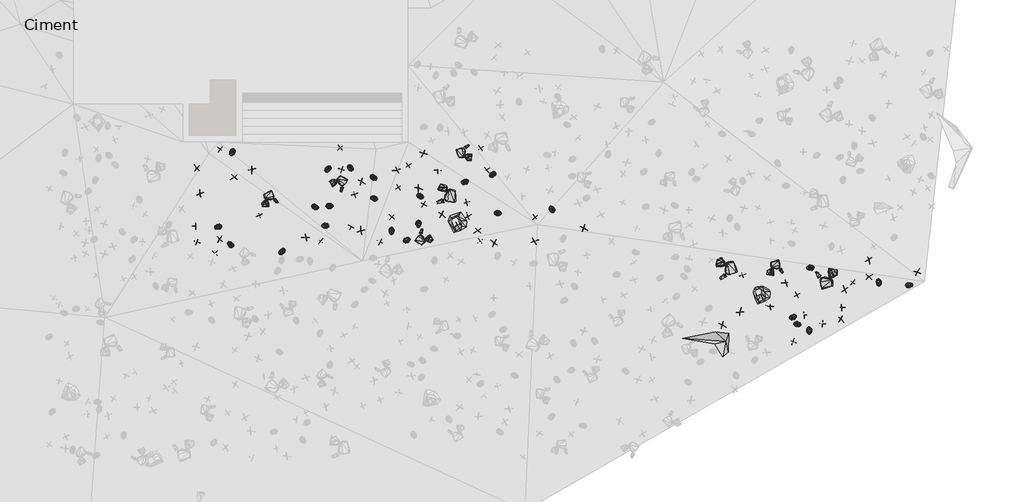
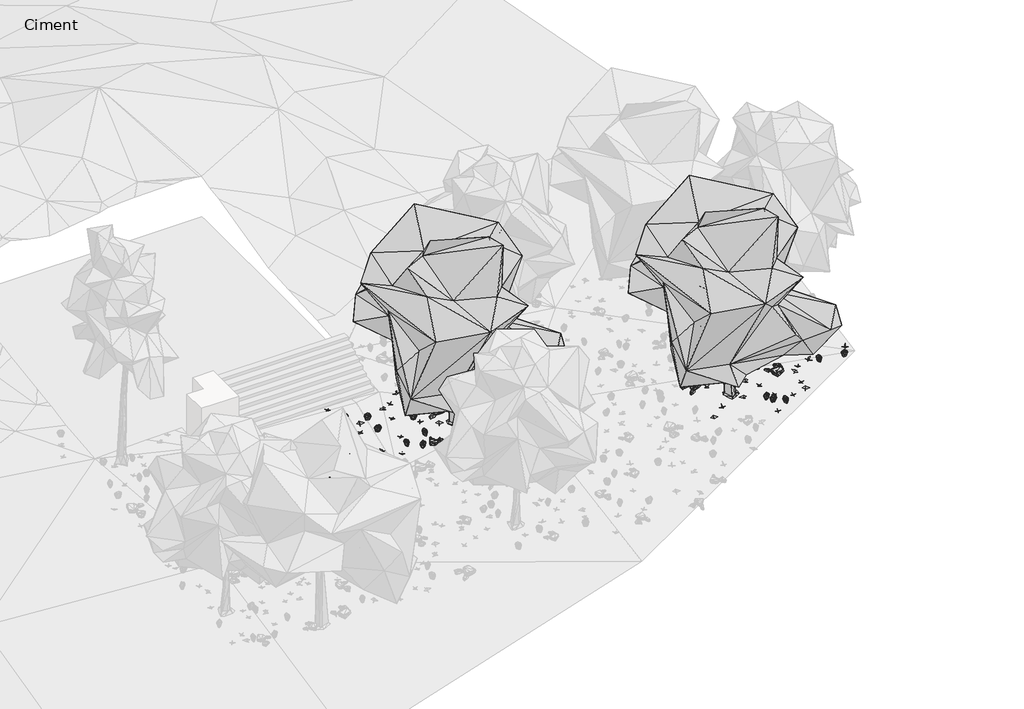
# One storey, part 14 of 30: 90 geographic elements.
"""IFC4 building model written with IfcOpenShell, lengths in millimetres."""

from ifc_helpers import new_model, si_unit, origin, place, context, project, spatial, transform, mapped, element, save
from components import enscape_assetdefinition_bush_025_fern_enscape_5718bf32, enscape_assetdefinition_bush_054_plant_09_version_2_enscape_7b546a12, enscape_assetdefinition_bush_062_plant_09_version_3_enscape_ccf8c8eb, enscape_assetdefinition_deciduous_tree_029_elm_enscape_e4c49baf, enscape_assetdefinition_stone_013_group_enscape_516da325, enscape_assetdefinition_stone_013_group_enscape_db9b3e91

model = new_model("IFC4")

# Units and contexts
model_context = context("Model", 3, world=origin())
ifc_project = project(units=[si_unit("LENGTHUNIT", "METRE", prefix="MILLI")], contexts=[model_context])

# Site, building, storey
site = spatial("IfcSite", under=ifc_project)
building = spatial("IfcBuilding", under=site)
storey = spatial("IfcBuildingStorey", under=building, Name="Ciment", Elevation=-1500.0)

# Geographic elements
placement = place(None, origin())
enscape_assetdefinition_bush_025_fern_enscape_shape = enscape_assetdefinition_bush_025_fern_enscape_5718bf32(model_context)
element("IfcGeographicElement", 1, ObjectType="Enscape AssetDefinition - Bush 025 Fern : Enscape AssetDefinition - Bush 025 Fern", at=placement, inside=storey, context=model_context, shape_type="MappedRepresentation", body=[
    mapped(enscape_assetdefinition_bush_025_fern_enscape_shape, transform((1644.0600157, -15642.2052383, -1774.5770216), x_axis=(-0.8180574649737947, 0.5751364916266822, 0.0), y_axis=(-0.5751364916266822, -0.8180574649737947, 0.0), z_axis=(0.0, 0.0, 1.0))),
])
element("IfcGeographicElement", 2, ObjectType="Enscape AssetDefinition - Bush 025 Fern : Enscape AssetDefinition - Bush 025 Fern", at=placement, inside=storey, context=model_context, shape_type="MappedRepresentation", body=[
    mapped(enscape_assetdefinition_bush_025_fern_enscape_shape, transform((22712.3355865, -18370.2144623, -2858.6161137), x_axis=(0.8759788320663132, 0.4823495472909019, 0.0), y_axis=(-0.4823495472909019, 0.8759788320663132, 0.0), z_axis=(0.0, 0.0, 1.0))),
])
element("IfcGeographicElement", 3, ObjectType="Enscape AssetDefinition - Bush 025 Fern : Enscape AssetDefinition - Bush 025 Fern", at=placement, inside=storey, context=model_context, shape_type="MappedRepresentation", body=[
    mapped(enscape_assetdefinition_bush_025_fern_enscape_shape, transform((7678.2355309, -15123.2194901, -1875.4259348), x_axis=(-0.20980226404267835, 0.9777438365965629, 0.0), y_axis=(-0.9777438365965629, -0.20980226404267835, 0.0), z_axis=(0.0, 0.0, 1.0))),
])
element("IfcGeographicElement", 4, ObjectType="Enscape AssetDefinition - Bush 025 Fern : Enscape AssetDefinition - Bush 025 Fern", at=placement, inside=storey, context=model_context, shape_type="MappedRepresentation", body=[
    mapped(enscape_assetdefinition_bush_025_fern_enscape_shape, transform((5188.0550385, -14940.2866364, -1783.2607031), x_axis=(-0.9965897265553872, -0.08251616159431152, 0.0), y_axis=(0.08251616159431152, -0.9965897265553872, 0.0), z_axis=(0.0, 0.0, 1.0))),
])
element("IfcGeographicElement", 5, ObjectType="Enscape AssetDefinition - Bush 025 Fern : Enscape AssetDefinition - Bush 025 Fern", at=placement, inside=storey, context=model_context, shape_type="MappedRepresentation", body=[
    mapped(enscape_assetdefinition_bush_025_fern_enscape_shape, transform((3584.4516754, -15902.3828506, -1865.3075695), x_axis=(0.5774781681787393, 0.8164061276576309, 0.0), y_axis=(-0.8164061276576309, 0.5774781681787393, 0.0), z_axis=(0.0, 0.0, 1.0))),
])
element("IfcGeographicElement", 6, ObjectType="Enscape AssetDefinition - Bush 025 Fern : Enscape AssetDefinition - Bush 025 Fern", at=placement, inside=storey, context=model_context, shape_type="MappedRepresentation", body=[
    mapped(enscape_assetdefinition_bush_025_fern_enscape_shape, transform((23310.6899261, -18883.9511871, -2940.6962395), x_axis=(0.20296764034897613, -0.9791854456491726, 0.0), y_axis=(0.9791854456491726, 0.20296764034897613, 0.0), z_axis=(0.0, 0.0, 1.0))),
])
element("IfcGeographicElement", 7, ObjectType="Enscape AssetDefinition - Bush 025 Fern : Enscape AssetDefinition - Bush 025 Fern", at=placement, inside=storey, context=model_context, shape_type="MappedRepresentation", body=[
    mapped(enscape_assetdefinition_bush_025_fern_enscape_shape, transform((1173.2940674, -14978.1894684, -1673.1889248), x_axis=(-0.9370545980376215, -0.349182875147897, 0.0), y_axis=(0.349182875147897, -0.9370545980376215, 0.0), z_axis=(0.0, 0.0, 1.0))),
])
element("IfcGeographicElement", 8, ObjectType="Enscape AssetDefinition - Bush 025 Fern : Enscape AssetDefinition - Bush 025 Fern", at=placement, inside=storey, context=model_context, shape_type="MappedRepresentation", body=[
    mapped(enscape_assetdefinition_bush_025_fern_enscape_shape, transform((11642.5676346, -14465.8069611, -1898.0927467), x_axis=(-0.9924580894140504, -0.12258442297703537, 0.0), y_axis=(0.12258442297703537, -0.9924580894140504, 0.0), z_axis=(0.0, 0.0, 1.0))),
])
element("IfcGeographicElement", 9, ObjectType="Enscape AssetDefinition - Bush 025 Fern : Enscape AssetDefinition - Bush 025 Fern", at=placement, inside=storey, context=model_context, shape_type="MappedRepresentation", body=[
    mapped(enscape_assetdefinition_bush_025_fern_enscape_shape, transform((8682.9204559, -14876.2645721, -1870.196104), x_axis=(0.09540391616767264, -0.9954386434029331, 0.0), y_axis=(0.9954386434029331, 0.09540391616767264, 0.0), z_axis=(0.0, 0.0, 1.0))),
])
element("IfcGeographicElement", 10, ObjectType="Enscape AssetDefinition - Bush 025 Fern : Enscape AssetDefinition - Bush 025 Fern", at=placement, inside=storey, context=model_context, shape_type="MappedRepresentation", body=[
    mapped(enscape_assetdefinition_bush_025_fern_enscape_shape, transform((5290.6131744, -12827.7988434, -1477.8283834), x_axis=(-0.585979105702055, -0.8103261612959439, 0.0), y_axis=(0.8103261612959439, -0.585979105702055, 0.0), z_axis=(0.0, 0.0, 1.0))),
])
element("IfcGeographicElement", 11, ObjectType="Enscape AssetDefinition - Bush 025 Fern : Enscape AssetDefinition - Bush 025 Fern", at=placement, inside=storey, context=model_context, shape_type="MappedRepresentation", body=[
    mapped(enscape_assetdefinition_bush_025_fern_enscape_shape, transform((13681.5357208, -14321.2451935, -2001.9249916), x_axis=(-0.6761263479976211, 0.7367856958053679, 0.0), y_axis=(-0.7367856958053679, -0.6761263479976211, 0.0), z_axis=(0.0, 0.0, 1.0))),
])
element("IfcGeographicElement", 12, ObjectType="Enscape AssetDefinition - Bush 025 Fern : Enscape AssetDefinition - Bush 025 Fern", at=placement, inside=storey, context=model_context, shape_type="MappedRepresentation", body=[
    mapped(enscape_assetdefinition_bush_025_fern_enscape_shape, transform((7006.1402321, -13148.2563019, -1556.9412708), x_axis=(0.9374189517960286, -0.34820354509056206, 0.0), y_axis=(0.34820354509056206, 0.9374189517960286, 0.0), z_axis=(0.0, 0.0, 1.0))),
])
element("IfcGeographicElement", 13, ObjectType="Enscape AssetDefinition - Bush 025 Fern : Enscape AssetDefinition - Bush 025 Fern", at=placement, inside=storey, context=model_context, shape_type="MappedRepresentation", body=[
    mapped(enscape_assetdefinition_bush_025_fern_enscape_shape, transform((11454.7967911, -13022.687912, -1727.601409), x_axis=(-0.6300888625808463, -0.7765230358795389, 0.0), y_axis=(0.7765230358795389, -0.6300888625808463, 0.0), z_axis=(0.0, 0.0, 1.0))),
])
element("IfcGeographicElement", 14, ObjectType="Enscape AssetDefinition - Bush 025 Fern : Enscape AssetDefinition - Bush 025 Fern", at=placement, inside=storey, context=model_context, shape_type="MappedRepresentation", body=[
    mapped(enscape_assetdefinition_bush_025_fern_enscape_shape, transform((5366.8041229, -14207.985878, -1679.8819304), x_axis=(0.9862992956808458, 0.16496575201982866, 0.0), y_axis=(-0.16496575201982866, 0.9862992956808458, 0.0), z_axis=(0.0, 0.0, 1.0))),
])
element("IfcGeographicElement", 15, ObjectType="Enscape AssetDefinition - Bush 025 Fern : Enscape AssetDefinition - Bush 025 Fern", at=placement, inside=storey, context=model_context, shape_type="MappedRepresentation", body=[
    mapped(enscape_assetdefinition_bush_025_fern_enscape_shape, transform((10412.779808, -13301.0616302, -1704.1169405), x_axis=(-0.892392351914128, -0.45126033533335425, 0.0), y_axis=(0.45126033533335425, -0.892392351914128, 0.0), z_axis=(0.0, 0.0, 1.0))),
])
element("IfcGeographicElement", 16, ObjectType="Enscape AssetDefinition - Bush 025 Fern : Enscape AssetDefinition - Bush 025 Fern", at=placement, inside=storey, context=model_context, shape_type="MappedRepresentation", body=[
    mapped(enscape_assetdefinition_bush_025_fern_enscape_shape, transform((27058.4449768, -17172.8076935, -2982.9530716), x_axis=(0.9937458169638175, 0.11166580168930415, 0.0), y_axis=(-0.11166580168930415, 0.9937458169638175, 0.0), z_axis=(0.0, 0.0, 1.0))),
])
element("IfcGeographicElement", 17, ObjectType="Enscape AssetDefinition - Bush 025 Fern : Enscape AssetDefinition - Bush 025 Fern", at=placement, inside=storey, context=model_context, shape_type="MappedRepresentation", body=[
    mapped(enscape_assetdefinition_bush_025_fern_enscape_shape, transform((4821.1612701, -14242.8340912, -1675.4235029), x_axis=(0.9553756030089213, -0.2953937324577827, 0.0), y_axis=(0.2953937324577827, 0.9553756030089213, 0.0), z_axis=(0.0, 0.0, 1.0))),
])
element("IfcGeographicElement", 18, ObjectType="Enscape AssetDefinition - Bush 025 Fern : Enscape AssetDefinition - Bush 025 Fern", at=placement, inside=storey, context=model_context, shape_type="MappedRepresentation", body=[
    mapped(enscape_assetdefinition_bush_025_fern_enscape_shape, transform((7014.9288177, -13915.4644012, -1673.6119986), x_axis=(-0.9734958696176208, 0.22870459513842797, 0.0), y_axis=(-0.22870459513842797, -0.9734958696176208, 0.0), z_axis=(0.0, 0.0, 1.0))),
])
element("IfcGeographicElement", 19, ObjectType="Enscape AssetDefinition - Bush 025 Fern : Enscape AssetDefinition - Bush 025 Fern", at=placement, inside=storey, context=model_context, shape_type="MappedRepresentation", body=[
    mapped(enscape_assetdefinition_bush_025_fern_enscape_shape, transform((6131.4373016, -12765.3980255, -1483.433485), x_axis=(-0.7519704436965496, 0.6591968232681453, 0.0), y_axis=(-0.6591968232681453, -0.7519704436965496, 0.0), z_axis=(0.0, 0.0, 1.0))),
])
element("IfcGeographicElement", 20, ObjectType="Enscape AssetDefinition - Bush 025 Fern : Enscape AssetDefinition - Bush 025 Fern", at=placement, inside=storey, context=model_context, shape_type="MappedRepresentation", body=[
    mapped(enscape_assetdefinition_bush_025_fern_enscape_shape, transform((1706.9548368, -12191.9078827, -1322.7828741), x_axis=(-0.39767130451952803, -0.9175279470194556, 0.0), y_axis=(0.9175279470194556, -0.39767130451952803, 0.0), z_axis=(0.0, 0.0, 1.0))),
])
element("IfcGeographicElement", 21, ObjectType="Enscape AssetDefinition - Bush 025 Fern : Enscape AssetDefinition - Bush 025 Fern", at=placement, inside=storey, context=model_context, shape_type="MappedRepresentation", body=[
    mapped(enscape_assetdefinition_bush_025_fern_enscape_shape, transform((25918.6458588, -17056.1504364, -2909.1148376), x_axis=(-0.30372904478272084, 0.9527584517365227, 0.0), y_axis=(-0.9527584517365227, -0.30372904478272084, 0.0), z_axis=(0.0, 0.0, 1.0))),
])
element("IfcGeographicElement", 22, ObjectType="Enscape AssetDefinition - Bush 025 Fern : Enscape AssetDefinition - Bush 025 Fern", at=placement, inside=storey, context=model_context, shape_type="MappedRepresentation", body=[
    mapped(enscape_assetdefinition_bush_025_fern_enscape_shape, transform((23350.3055573, -16512.7429962, -2715.8768177), x_axis=(-0.9891294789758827, -0.1470471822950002, 0.0), y_axis=(0.1470471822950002, -0.9891294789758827, 0.0), z_axis=(0.0, 0.0, 1.0))),
])
element("IfcGeographicElement", 23, ObjectType="Enscape AssetDefinition - Bush 025 Fern : Enscape AssetDefinition - Bush 025 Fern", at=placement, inside=storey, context=model_context, shape_type="MappedRepresentation", body=[
    mapped(enscape_assetdefinition_bush_025_fern_enscape_shape, transform((8737.8864288, -13826.2462616, -1728.3365726), x_axis=(-0.9490367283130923, 0.3151654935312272, 0.0), y_axis=(-0.3151654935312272, -0.9490367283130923, 0.0), z_axis=(0.0, 0.0, 1.0))),
])
element("IfcGeographicElement", 24, ObjectType="Enscape AssetDefinition - Bush 025 Fern : Enscape AssetDefinition - Bush 025 Fern", at=placement, inside=storey, context=model_context, shape_type="MappedRepresentation", body=[
    mapped(enscape_assetdefinition_bush_025_fern_enscape_shape, transform((8254.8389435, -15483.8466644, -1941.0400391), x_axis=(0.8585460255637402, 0.5127365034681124, 0.0), y_axis=(-0.5127365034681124, 0.8585460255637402, 0.0), z_axis=(0.0, 0.0, 1.0))),
])
element("IfcGeographicElement", 25, ObjectType="Enscape AssetDefinition - Bush 025 Fern : Enscape AssetDefinition - Bush 025 Fern", at=placement, inside=storey, context=model_context, shape_type="MappedRepresentation", body=[
    mapped(enscape_assetdefinition_bush_025_fern_enscape_shape, transform((22860.8798981, -18625.6694794, -2891.2386894), x_axis=(-0.9999701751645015, 0.007723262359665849, 0.0), y_axis=(-0.007723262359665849, -0.9999701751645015, 0.0), z_axis=(0.0, 0.0, 1.0))),
])
enscape_assetdefinition_bush_054_plant_09_version_2_enscape_shape = enscape_assetdefinition_bush_054_plant_09_version_2_enscape_7b546a12(model_context)
element("IfcGeographicElement", 26, ObjectType="Enscape AssetDefinition - Bush 054 Plant 09, Version 2 : Enscape AssetDefinition - Bush 054 Plant 09, Version 2", at=placement, inside=storey, context=model_context, shape_type="MappedRepresentation", body=[
    mapped(enscape_assetdefinition_bush_054_plant_09_version_2_enscape_shape, transform((24929.2583466, -17065.7176971, -2855.6303978), x_axis=(0.8235951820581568, -0.5671780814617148, 0.0), y_axis=(0.5671780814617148, 0.8235951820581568, 0.0), z_axis=(0.0, 0.0, 1.0))),
])
element("IfcGeographicElement", 27, ObjectType="Enscape AssetDefinition - Bush 054 Plant 09, Version 2 : Enscape AssetDefinition - Bush 054 Plant 09, Version 2", at=placement, inside=storey, context=model_context, shape_type="MappedRepresentation", body=[
    mapped(enscape_assetdefinition_bush_054_plant_09_version_2_enscape_shape, transform((22844.8886871, -17537.065506, -2786.1466408), x_axis=(0.5302305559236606, -0.8478535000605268, 0.0), y_axis=(0.8478535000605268, 0.5302305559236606, 0.0), z_axis=(0.0, 0.0, 1.0))),
])
element("IfcGeographicElement", 28, ObjectType="Enscape AssetDefinition - Bush 054 Plant 09, Version 2 : Enscape AssetDefinition - Bush 054 Plant 09, Version 2", at=placement, inside=storey, context=model_context, shape_type="MappedRepresentation", body=[
    mapped(enscape_assetdefinition_bush_054_plant_09_version_2_enscape_shape, transform((5756.319046, -12027.6012421, -1369.5847988), x_axis=(0.7104579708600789, 0.7037396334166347, 0.0), y_axis=(-0.7037396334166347, 0.7104579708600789, 0.0), z_axis=(0.0, 0.0, 1.0))),
])
element("IfcGeographicElement", 29, ObjectType="Enscape AssetDefinition - Bush 054 Plant 09, Version 2 : Enscape AssetDefinition - Bush 054 Plant 09, Version 2", at=placement, inside=storey, context=model_context, shape_type="MappedRepresentation", body=[
    mapped(enscape_assetdefinition_bush_054_plant_09_version_2_enscape_shape, transform((24534.078598, -18001.0051727, -2923.4375954), x_axis=(-0.9940079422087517, -0.10930787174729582, 0.0), y_axis=(0.10930787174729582, -0.9940079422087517, 0.0), z_axis=(0.0, 0.0, 1.0))),
])
element("IfcGeographicElement", 30, ObjectType="Enscape AssetDefinition - Bush 054 Plant 09, Version 2 : Enscape AssetDefinition - Bush 054 Plant 09, Version 2", at=placement, inside=storey, context=model_context, shape_type="MappedRepresentation", body=[
    mapped(enscape_assetdefinition_bush_054_plant_09_version_2_enscape_shape, transform((1257.6065063, -12078.371048, -1294.6424484), x_axis=(0.8349367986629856, -0.5503458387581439, 0.0), y_axis=(0.5503458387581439, 0.8349367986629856, 0.0), z_axis=(0.0, 0.0, 1.0))),
])
element("IfcGeographicElement", 31, ObjectType="Enscape AssetDefinition - Bush 054 Plant 09, Version 2 : Enscape AssetDefinition - Bush 054 Plant 09, Version 2", at=placement, inside=storey, context=model_context, shape_type="MappedRepresentation", body=[
    mapped(enscape_assetdefinition_bush_054_plant_09_version_2_enscape_shape, transform((6164.899826, -14980.0252914, -1806.0941696), x_axis=(0.9144814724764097, -0.4046277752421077, 0.0), y_axis=(0.4046277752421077, 0.9144814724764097, 0.0), z_axis=(0.0, 0.0, 1.0))),
])
element("IfcGeographicElement", 32, ObjectType="Enscape AssetDefinition - Bush 054 Plant 09, Version 2 : Enscape AssetDefinition - Bush 054 Plant 09, Version 2", at=placement, inside=storey, context=model_context, shape_type="MappedRepresentation", body=[
    mapped(enscape_assetdefinition_bush_054_plant_09_version_2_enscape_shape, transform((9413.2518768, -12867.4154282, -1616.5311337), x_axis=(0.011570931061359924, 0.9999330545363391, 0.0), y_axis=(-0.9999330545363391, 0.011570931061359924, 0.0), z_axis=(0.0, 0.0, 1.0))),
])
element("IfcGeographicElement", 33, ObjectType="Enscape AssetDefinition - Bush 054 Plant 09, Version 2 : Enscape AssetDefinition - Bush 054 Plant 09, Version 2", at=placement, inside=storey, context=model_context, shape_type="MappedRepresentation", body=[
    mapped(enscape_assetdefinition_bush_054_plant_09_version_2_enscape_shape, transform((2735.3937626, -14558.2904816, -1663.097024), x_axis=(-0.38737225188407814, 0.9219233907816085, 0.0), y_axis=(-0.9219233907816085, -0.38737225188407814, 0.0), z_axis=(0.0, 0.0, 1.0))),
])
element("IfcGeographicElement", 34, ObjectType="Enscape AssetDefinition - Bush 054 Plant 09, Version 2 : Enscape AssetDefinition - Bush 054 Plant 09, Version 2", at=placement, inside=storey, context=model_context, shape_type="MappedRepresentation", body=[
    mapped(enscape_assetdefinition_bush_054_plant_09_version_2_enscape_shape, transform((10995.5234528, -15517.3664093, -2016.1082745), x_axis=(0.6728208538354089, -0.7398054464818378, 0.0), y_axis=(0.7398054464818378, 0.6728208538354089, 0.0), z_axis=(0.0, 0.0, 1.0))),
])
element("IfcGeographicElement", 35, ObjectType="Enscape AssetDefinition - Bush 054 Plant 09, Version 2 : Enscape AssetDefinition - Bush 054 Plant 09, Version 2", at=placement, inside=storey, context=model_context, shape_type="MappedRepresentation", body=[
    mapped(enscape_assetdefinition_bush_054_plant_09_version_2_enscape_shape, transform((8302.312851, -12681.2267303, -1559.5854521), x_axis=(-0.7887898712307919, -0.6146629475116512, 0.0), y_axis=(0.6146629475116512, -0.7887898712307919, 0.0), z_axis=(0.0, 0.0, 1.0))),
])
element("IfcGeographicElement", 36, ObjectType="Enscape AssetDefinition - Bush 054 Plant 09, Version 2 : Enscape AssetDefinition - Bush 054 Plant 09, Version 2", at=placement, inside=storey, context=model_context, shape_type="MappedRepresentation", body=[
    mapped(enscape_assetdefinition_bush_054_plant_09_version_2_enscape_shape, transform((20806.1771393, -16786.4017487, -2602.1888256), x_axis=(0.3363458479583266, -0.9417385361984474, 0.0), y_axis=(0.9417385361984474, 0.3363458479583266, 0.0), z_axis=(0.0, 0.0, 1.0))),
])
element("IfcGeographicElement", 37, ObjectType="Enscape AssetDefinition - Bush 054 Plant 09, Version 2 : Enscape AssetDefinition - Bush 054 Plant 09, Version 2", at=placement, inside=storey, context=model_context, shape_type="MappedRepresentation", body=[
    mapped(enscape_assetdefinition_bush_054_plant_09_version_2_enscape_shape, transform((7933.6953163, -13511.3353729, -1662.5101566), x_axis=(0.815896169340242, 0.57819844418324, 0.0), y_axis=(-0.57819844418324, 0.815896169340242, 0.0), z_axis=(0.0, 0.0, 1.0))),
])
element("IfcGeographicElement", 38, ObjectType="Enscape AssetDefinition - Bush 054 Plant 09, Version 2 : Enscape AssetDefinition - Bush 054 Plant 09, Version 2", at=placement, inside=storey, context=model_context, shape_type="MappedRepresentation", body=[
    mapped(enscape_assetdefinition_bush_054_plant_09_version_2_enscape_shape, transform((11243.2575226, -12849.5693207, -1699.4405985), x_axis=(-0.7245530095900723, -0.6892190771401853, 0.0), y_axis=(0.6892190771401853, -0.7245530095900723, 0.0), z_axis=(0.0, 0.0, 1.0))),
])
element("IfcGeographicElement", 39, ObjectType="Enscape AssetDefinition - Bush 054 Plant 09, Version 2 : Enscape AssetDefinition - Bush 054 Plant 09, Version 2", at=placement, inside=storey, context=model_context, shape_type="MappedRepresentation", body=[
    mapped(enscape_assetdefinition_bush_054_plant_09_version_2_enscape_shape, transform((7689.6457672, -14623.8384247, -1807.5406551), x_axis=(0.637873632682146, 0.770141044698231, 0.0), y_axis=(-0.770141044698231, 0.637873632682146, 0.0), z_axis=(0.0, 0.0, 1.0))),
])
element("IfcGeographicElement", 40, ObjectType="Enscape AssetDefinition - Bush 054 Plant 09, Version 2 : Enscape AssetDefinition - Bush 054 Plant 09, Version 2", at=placement, inside=storey, context=model_context, shape_type="MappedRepresentation", body=[
    mapped(enscape_assetdefinition_bush_054_plant_09_version_2_enscape_shape, transform((23113.1305695, -18294.5919037, -2873.414278), x_axis=(0.9929524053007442, 0.11851380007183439, 0.0), y_axis=(-0.11851380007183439, 0.9929524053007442, 0.0), z_axis=(0.0, 0.0, 1.0))),
])
element("IfcGeographicElement", 41, ObjectType="Enscape AssetDefinition - Bush 054 Plant 09, Version 2 : Enscape AssetDefinition - Bush 054 Plant 09, Version 2", at=placement, inside=storey, context=model_context, shape_type="MappedRepresentation", body=[
    mapped(enscape_assetdefinition_bush_054_plant_09_version_2_enscape_shape, transform((399.0631402, -15554.643631, -1726.8466949), x_axis=(0.27932011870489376, 0.9601980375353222, 0.0), y_axis=(-0.9601980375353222, 0.27932011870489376, 0.0), z_axis=(0.0, 0.0, 1.0))),
])
element("IfcGeographicElement", 42, ObjectType="Enscape AssetDefinition - Bush 054 Plant 09, Version 2 : Enscape AssetDefinition - Bush 054 Plant 09, Version 2", at=placement, inside=storey, context=model_context, shape_type="MappedRepresentation", body=[
    mapped(enscape_assetdefinition_bush_054_plant_09_version_2_enscape_shape, transform((5016.2906647, -15519.9022293, -1856.3739061), x_axis=(0.8164094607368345, -0.5774734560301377, 0.0), y_axis=(0.5774734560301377, 0.8164094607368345, 0.0), z_axis=(0.0, 0.0, 1.0))),
])
element("IfcGeographicElement", 43, ObjectType="Enscape AssetDefinition - Bush 054 Plant 09, Version 2 : Enscape AssetDefinition - Bush 054 Plant 09, Version 2", at=placement, inside=storey, context=model_context, shape_type="MappedRepresentation", body=[
    mapped(enscape_assetdefinition_bush_054_plant_09_version_2_enscape_shape, transform((5806.5199852, -12840.5590057, -1488.6912107), x_axis=(0.9774582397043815, -0.2111288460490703, 0.0), y_axis=(0.2111288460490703, 0.9774582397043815, 0.0), z_axis=(0.0, 0.0, 1.0))),
])
element("IfcGeographicElement", 44, ObjectType="Enscape AssetDefinition - Bush 054 Plant 09, Version 2 : Enscape AssetDefinition - Bush 054 Plant 09, Version 2", at=placement, inside=storey, context=model_context, shape_type="MappedRepresentation", body=[
    mapped(enscape_assetdefinition_bush_054_plant_09_version_2_enscape_shape, transform((338.42659, -14965.4026031, -1647.2496986), x_axis=(0.999252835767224, 0.038649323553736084, 0.0), y_axis=(-0.038649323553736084, 0.999252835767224, 0.0), z_axis=(0.0, 0.0, 1.0))),
])
element("IfcGeographicElement", 45, ObjectType="Enscape AssetDefinition - Bush 054 Plant 09, Version 2 : Enscape AssetDefinition - Bush 054 Plant 09, Version 2", at=placement, inside=storey, context=model_context, shape_type="MappedRepresentation", body=[
    mapped(enscape_assetdefinition_bush_054_plant_09_version_2_enscape_shape, transform((11005.1288605, -12042.5958633, -1613.7565374), x_axis=(0.6196926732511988, -0.784844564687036, 0.0), y_axis=(0.784844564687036, 0.6196926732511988, 0.0), z_axis=(0.0, 0.0, 1.0))),
])
element("IfcGeographicElement", 46, ObjectType="Enscape AssetDefinition - Bush 054 Plant 09, Version 2 : Enscape AssetDefinition - Bush 054 Plant 09, Version 2", at=placement, inside=storey, context=model_context, shape_type="MappedRepresentation", body=[
    mapped(enscape_assetdefinition_bush_054_plant_09_version_2_enscape_shape, transform((13047.1887589, -14626.2111664, -1972.4820852), x_axis=(0.6748937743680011, -0.7379148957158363, 0.0), y_axis=(0.7379148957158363, 0.6748937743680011, 0.0), z_axis=(0.0, 0.0, 1.0))),
])
element("IfcGeographicElement", 47, ObjectType="Enscape AssetDefinition - Bush 054 Plant 09, Version 2 : Enscape AssetDefinition - Bush 054 Plant 09, Version 2", at=placement, inside=storey, context=model_context, shape_type="MappedRepresentation", body=[
    mapped(enscape_assetdefinition_bush_054_plant_09_version_2_enscape_shape, transform((23816.034317, -18610.8036041, -2942.3334599), x_axis=(-0.9996811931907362, 0.025248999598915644, 0.0), y_axis=(-0.025248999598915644, -0.9996811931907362, 0.0), z_axis=(0.0, 0.0, 1.0))),
])
element("IfcGeographicElement", 48, ObjectType="Enscape AssetDefinition - Bush 054 Plant 09, Version 2 : Enscape AssetDefinition - Bush 054 Plant 09, Version 2", at=placement, inside=storey, context=model_context, shape_type="MappedRepresentation", body=[
    mapped(enscape_assetdefinition_bush_054_plant_09_version_2_enscape_shape, transform((22709.4135284, -19280.714035, -2945.6186295), x_axis=(-0.9527293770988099, 0.30382023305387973, 0.0), y_axis=(-0.30382023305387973, -0.9527293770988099, 0.0), z_axis=(0.0, 0.0, 1.0))),
])
element("IfcGeographicElement", 49, ObjectType="Enscape AssetDefinition - Bush 054 Plant 09, Version 2 : Enscape AssetDefinition - Bush 054 Plant 09, Version 2", at=placement, inside=storey, context=model_context, shape_type="MappedRepresentation", body=[
    mapped(enscape_assetdefinition_bush_054_plant_09_version_2_enscape_shape, transform((1060.8730316, -15969.9954987, -1800.9362221), x_axis=(-0.6564929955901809, -0.7543321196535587, 0.0), y_axis=(0.7543321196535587, -0.6564929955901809, 0.0), z_axis=(0.0, 0.0, 1.0))),
])
element("IfcGeographicElement", 50, ObjectType="Enscape AssetDefinition - Bush 054 Plant 09, Version 2 : Enscape AssetDefinition - Bush 054 Plant 09, Version 2", at=placement, inside=storey, context=model_context, shape_type="MappedRepresentation", body=[
    mapped(enscape_assetdefinition_bush_054_plant_09_version_2_enscape_shape, transform((8885.0460052, -14133.562088, -1774.486661), x_axis=(-0.8977914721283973, 0.4404207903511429, 0.0), y_axis=(-0.4404207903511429, -0.8977914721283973, 0.0), z_axis=(0.0, 0.0, 1.0))),
])
element("IfcGeographicElement", 51, ObjectType="Enscape AssetDefinition - Bush 054 Plant 09, Version 2 : Enscape AssetDefinition - Bush 054 Plant 09, Version 2", at=placement, inside=storey, context=model_context, shape_type="MappedRepresentation", body=[
    mapped(enscape_assetdefinition_bush_054_plant_09_version_2_enscape_shape, transform((6296.415329, -13765.3589249, -1631.7396164), x_axis=(-0.3830254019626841, 0.9237378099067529, 0.0), y_axis=(-0.9237378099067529, -0.3830254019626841, 0.0), z_axis=(0.0, 0.0, 1.0))),
])
element("IfcGeographicElement", 52, ObjectType="Enscape AssetDefinition - Bush 054 Plant 09, Version 2 : Enscape AssetDefinition - Bush 054 Plant 09, Version 2", at=placement, inside=storey, context=model_context, shape_type="MappedRepresentation", body=[
    mapped(enscape_assetdefinition_bush_054_plant_09_version_2_enscape_shape, transform((7237.5888824, -15551.1760712, -1921.3793278), x_axis=(0.9183156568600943, -0.3958489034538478, 0.0), y_axis=(0.3958489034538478, 0.9183156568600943, 0.0), z_axis=(0.0, 0.0, 1.0))),
])
element("IfcGeographicElement", 53, ObjectType="Enscape AssetDefinition - Bush 054 Plant 09, Version 2 : Enscape AssetDefinition - Bush 054 Plant 09, Version 2", at=placement, inside=storey, context=model_context, shape_type="MappedRepresentation", body=[
    mapped(enscape_assetdefinition_bush_054_plant_09_version_2_enscape_shape, transform((10487.6155853, -14062.7803802, -1810.2805614), x_axis=(-0.9504984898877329, -0.3107291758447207, 0.0), y_axis=(0.3107291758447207, -0.9504984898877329, 0.0), z_axis=(0.0, 0.0, 1.0))),
])
enscape_assetdefinition_bush_062_plant_09_version_3_enscape_shape = enscape_assetdefinition_bush_062_plant_09_version_3_enscape_ccf8c8eb(model_context)
element("IfcGeographicElement", 54, ObjectType="Enscape AssetDefinition - Bush 062 Plant 09, Version 3 : Enscape AssetDefinition - Bush 062 Plant 09, Version 3", at=placement, inside=storey, context=model_context, shape_type="MappedRepresentation", body=[
    mapped(enscape_assetdefinition_bush_062_plant_09_version_3_enscape_shape, transform((13032.5498581, -15510.5304718, -2055.3021431), x_axis=(0.6143215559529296, -0.7890557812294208, 0.0), y_axis=(0.7890557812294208, 0.6143215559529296, 0.0), z_axis=(0.0, 0.0, 1.0))),
])
element("IfcGeographicElement", 55, ObjectType="Enscape AssetDefinition - Bush 062 Plant 09, Version 3 : Enscape AssetDefinition - Bush 062 Plant 09, Version 3", at=placement, inside=storey, context=model_context, shape_type="MappedRepresentation", body=[
    mapped(enscape_assetdefinition_bush_062_plant_09_version_3_enscape_shape, transform((20070.230484, -18665.3003693, -2741.5919304), x_axis=(-0.15577720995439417, -0.987792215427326, 0.0), y_axis=(0.987792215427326, -0.15577720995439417, 0.0), z_axis=(0.0, 0.0, 1.0))),
])
element("IfcGeographicElement", 56, ObjectType="Enscape AssetDefinition - Bush 062 Plant 09, Version 3 : Enscape AssetDefinition - Bush 062 Plant 09, Version 3", at=placement, inside=storey, context=model_context, shape_type="MappedRepresentation", body=[
    mapped(enscape_assetdefinition_bush_062_plant_09_version_3_enscape_shape, transform((9569.776535, -14522.7451324, -1847.0683098), x_axis=(-0.33600345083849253, -0.9418607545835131, 0.0), y_axis=(0.9418607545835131, -0.33600345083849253, 0.0), z_axis=(0.0, 0.0, 1.0))),
])
element("IfcGeographicElement", 57, ObjectType="Enscape AssetDefinition - Bush 062 Plant 09, Version 3 : Enscape AssetDefinition - Bush 062 Plant 09, Version 3", at=placement, inside=storey, context=model_context, shape_type="MappedRepresentation", body=[
    mapped(enscape_assetdefinition_bush_062_plant_09_version_3_enscape_shape, transform((24505.6037903, -18442.9721832, -2964.1816616), x_axis=(-0.41197061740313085, -0.9111971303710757, 0.0), y_axis=(0.9111971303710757, -0.41197061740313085, 0.0), z_axis=(0.0, 0.0, 1.0))),
])
element("IfcGeographicElement", 58, ObjectType="Enscape AssetDefinition - Bush 062 Plant 09, Version 3 : Enscape AssetDefinition - Bush 062 Plant 09, Version 3", at=placement, inside=storey, context=model_context, shape_type="MappedRepresentation", body=[
    mapped(enscape_assetdefinition_bush_062_plant_09_version_3_enscape_shape, transform((7864.2864227, -12858.2210541, -1569.9238777), x_axis=(-0.5039205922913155, 0.8637499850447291, 0.0), y_axis=(-0.8637499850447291, -0.5039205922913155, 0.0), z_axis=(0.0, 0.0, 1.0))),
])
element("IfcGeographicElement", 59, ObjectType="Enscape AssetDefinition - Bush 062 Plant 09, Version 3 : Enscape AssetDefinition - Bush 062 Plant 09, Version 3", at=placement, inside=storey, context=model_context, shape_type="MappedRepresentation", body=[
    mapped(enscape_assetdefinition_bush_062_plant_09_version_3_enscape_shape, transform((11508.9969635, -15581.4533234, -2032.1850777), x_axis=(0.35402600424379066, 0.9352355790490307, 0.0), y_axis=(-0.9352355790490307, 0.35402600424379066, 0.0), z_axis=(0.0, 0.0, 1.0))),
])
element("IfcGeographicElement", 60, ObjectType="Enscape AssetDefinition - Bush 062 Plant 09, Version 3 : Enscape AssetDefinition - Bush 062 Plant 09, Version 3", at=placement, inside=storey, context=model_context, shape_type="MappedRepresentation", body=[
    mapped(enscape_assetdefinition_bush_062_plant_09_version_3_enscape_shape, transform((14883.9626312, -15033.9946747, -2113.9912605), x_axis=(-0.1800042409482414, -0.983665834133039, 0.0), y_axis=(0.983665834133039, -0.1800042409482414, 0.0), z_axis=(0.0, 0.0, 1.0))),
])
element("IfcGeographicElement", 61, ObjectType="Enscape AssetDefinition - Bush 062 Plant 09, Version 3 : Enscape AssetDefinition - Bush 062 Plant 09, Version 3", at=placement, inside=storey, context=model_context, shape_type="MappedRepresentation", body=[
    mapped(enscape_assetdefinition_bush_062_plant_09_version_3_enscape_shape, transform((20728.6472321, -18163.0649567, -2729.7148705), x_axis=(0.9934279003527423, 0.11445962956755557, 0.0), y_axis=(-0.11445962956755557, 0.9934279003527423, 0.0), z_axis=(0.0, 0.0, 1.0))),
])
element("IfcGeographicElement", 62, ObjectType="Enscape AssetDefinition - Bush 062 Plant 09, Version 3 : Enscape AssetDefinition - Bush 062 Plant 09, Version 3", at=placement, inside=storey, context=model_context, shape_type="MappedRepresentation", body=[
    mapped(enscape_assetdefinition_bush_062_plant_09_version_3_enscape_shape, transform((6558.4888458, -13288.8202667, -1567.0115948), x_axis=(-0.19636416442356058, -0.9805310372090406, 0.0), y_axis=(0.9805310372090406, -0.19636416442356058, 0.0), z_axis=(0.0, 0.0, 1.0))),
])
element("IfcGeographicElement", 63, ObjectType="Enscape AssetDefinition - Bush 062 Plant 09, Version 3 : Enscape AssetDefinition - Bush 062 Plant 09, Version 3", at=placement, inside=storey, context=model_context, shape_type="MappedRepresentation", body=[
    mapped(enscape_assetdefinition_bush_062_plant_09_version_3_enscape_shape, transform((8866.060257, -12244.5001602, -1515.9261227), x_axis=(-0.9860868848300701, 0.16623072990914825, 0.0), y_axis=(-0.16623072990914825, -0.9860868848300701, 0.0), z_axis=(0.0, 0.0, 1.0))),
])
element("IfcGeographicElement", 64, ObjectType="Enscape AssetDefinition - Bush 062 Plant 09, Version 3 : Enscape AssetDefinition - Bush 062 Plant 09, Version 3", at=placement, inside=storey, context=model_context, shape_type="MappedRepresentation", body=[
    mapped(enscape_assetdefinition_bush_062_plant_09_version_3_enscape_shape, transform((21837.480545, -17967.4777985, -2771.9590664), x_axis=(-0.18757737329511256, 0.9822498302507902, 0.0), y_axis=(-0.9822498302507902, -0.18757737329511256, 0.0), z_axis=(0.0, 0.0, 1.0))),
])
element("IfcGeographicElement", 65, ObjectType="Enscape AssetDefinition - Bush 062 Plant 09, Version 3 : Enscape AssetDefinition - Bush 062 Plant 09, Version 3", at=placement, inside=storey, context=model_context, shape_type="MappedRepresentation", body=[
    mapped(enscape_assetdefinition_bush_062_plant_09_version_3_enscape_shape, transform((22430.5858612, -17084.7225189, -2720.0632095), x_axis=(-0.40464017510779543, 0.9144759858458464, 0.0), y_axis=(-0.9144759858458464, -0.40464017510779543, 0.0), z_axis=(0.0, 0.0, 1.0))),
])
element("IfcGeographicElement", 66, ObjectType="Enscape AssetDefinition - Bush 062 Plant 09, Version 3 : Enscape AssetDefinition - Bush 062 Plant 09, Version 3", at=placement, inside=storey, context=model_context, shape_type="MappedRepresentation", body=[
    mapped(enscape_assetdefinition_bush_062_plant_09_version_3_enscape_shape, transform((498.8250732, -13723.5240936, -1487.862587), x_axis=(0.8906467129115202, 0.4546959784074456, 0.0), y_axis=(-0.4546959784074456, 0.8906467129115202, 0.0), z_axis=(0.0, 0.0, 1.0))),
])
element("IfcGeographicElement", 67, ObjectType="Enscape AssetDefinition - Bush 062 Plant 09, Version 3 : Enscape AssetDefinition - Bush 062 Plant 09, Version 3", at=placement, inside=storey, context=model_context, shape_type="MappedRepresentation", body=[
    mapped(enscape_assetdefinition_bush_062_plant_09_version_3_enscape_shape, transform((25559.261322, -16847.3949432, -2869.3704605), x_axis=(0.8355282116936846, -0.5494475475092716, 0.0), y_axis=(0.5494475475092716, 0.8355282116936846, 0.0), z_axis=(0.0, 0.0, 1.0))),
])
element("IfcGeographicElement", 68, ObjectType="Enscape AssetDefinition - Bush 062 Plant 09, Version 3 : Enscape AssetDefinition - Bush 062 Plant 09, Version 3", at=placement, inside=storey, context=model_context, shape_type="MappedRepresentation", body=[
    mapped(enscape_assetdefinition_bush_062_plant_09_version_3_enscape_shape, transform((10521.2688446, -14582.529068, -1882.2263479), x_axis=(0.7967808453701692, 0.6042683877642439, 0.0), y_axis=(-0.6042683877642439, 0.7967808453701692, 0.0), z_axis=(0.0, 0.0, 1.0))),
])
element("IfcGeographicElement", 69, ObjectType="Enscape AssetDefinition - Bush 062 Plant 09, Version 3 : Enscape AssetDefinition - Bush 062 Plant 09, Version 3", at=placement, inside=storey, context=model_context, shape_type="MappedRepresentation", body=[
    mapped(enscape_assetdefinition_bush_062_plant_09_version_3_enscape_shape, transform((1228.0406952, -15438.2801056, -1735.5552912), x_axis=(0.45823518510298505, 0.8888309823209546, 0.0), y_axis=(-0.8888309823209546, 0.45823518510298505, 0.0), z_axis=(0.0, 0.0, 1.0))),
])
element("IfcGeographicElement", 70, ObjectType="Enscape AssetDefinition - Bush 062 Plant 09, Version 3 : Enscape AssetDefinition - Bush 062 Plant 09, Version 3", at=placement, inside=storey, context=model_context, shape_type="MappedRepresentation", body=[
    mapped(enscape_assetdefinition_bush_062_plant_09_version_3_enscape_shape, transform((10159.2845917, -14913.3358002, -1917.1414375), x_axis=(0.547454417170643, -0.836835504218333, 0.0), y_axis=(0.836835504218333, 0.547454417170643, 0.0), z_axis=(0.0, 0.0, 1.0))),
])
element("IfcGeographicElement", 71, ObjectType="Enscape AssetDefinition - Bush 062 Plant 09, Version 3 : Enscape AssetDefinition - Bush 062 Plant 09, Version 3", at=placement, inside=storey, context=model_context, shape_type="MappedRepresentation", body=[
    mapped(enscape_assetdefinition_bush_062_plant_09_version_3_enscape_shape, transform((8692.9569244, -13535.6426239, -1687.3691082), x_axis=(0.07501662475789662, -0.9971822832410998, 0.0), y_axis=(0.9971822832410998, 0.07501662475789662, 0.0), z_axis=(0.0, 0.0, 1.0))),
])
element("IfcGeographicElement", 72, ObjectType="Enscape AssetDefinition - Bush 062 Plant 09, Version 3 : Enscape AssetDefinition - Bush 062 Plant 09, Version 3", at=placement, inside=storey, context=model_context, shape_type="MappedRepresentation", body=[
    mapped(enscape_assetdefinition_bush_062_plant_09_version_3_enscape_shape, transform((376.9741058, -12779.2539597, -1364.4553423), x_axis=(0.5374613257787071, 0.8432883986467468, 0.0), y_axis=(-0.8432883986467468, 0.5374613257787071, 0.0), z_axis=(0.0, 0.0, 1.0))),
])
element("IfcGeographicElement", 73, ObjectType="Enscape AssetDefinition - Bush 062 Plant 09, Version 3 : Enscape AssetDefinition - Bush 062 Plant 09, Version 3", at=placement, inside=storey, context=model_context, shape_type="MappedRepresentation", body=[
    mapped(enscape_assetdefinition_bush_062_plant_09_version_3_enscape_shape, transform((24633.0242157, -17323.8945007, -2864.0575409), x_axis=(0.7643011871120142, 0.6448594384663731, 0.0), y_axis=(-0.6448594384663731, 0.7643011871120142, 0.0), z_axis=(0.0, 0.0, 1.0))),
])
element("IfcGeographicElement", 74, ObjectType="Enscape AssetDefinition - Bush 062 Plant 09, Version 3 : Enscape AssetDefinition - Bush 062 Plant 09, Version 3", at=placement, inside=storey, context=model_context, shape_type="MappedRepresentation", body=[
    mapped(enscape_assetdefinition_bush_062_plant_09_version_3_enscape_shape, transform((27361.8164062, -16671.5831757, -2971.9998837), x_axis=(0.982609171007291, -0.18568580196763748, 0.0), y_axis=(0.18568580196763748, 0.982609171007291, 0.0), z_axis=(0.0, 0.0, 1.0))),
])
element("IfcGeographicElement", 75, ObjectType="Enscape AssetDefinition - Bush 062 Plant 09, Version 3 : Enscape AssetDefinition - Bush 062 Plant 09, Version 3", at=placement, inside=storey, context=model_context, shape_type="MappedRepresentation", body=[
    mapped(enscape_assetdefinition_bush_062_plant_09_version_3_enscape_shape, transform((4454.4620514, -15393.4698105, -1823.3532906), x_axis=(-0.3307617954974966, 0.9437142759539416, 0.0), y_axis=(-0.9437142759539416, -0.3307617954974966, 0.0), z_axis=(0.0, 0.0, 1.0))),
])
element("IfcGeographicElement", 76, ObjectType="Enscape AssetDefinition - Bush 062 Plant 09, Version 3 : Enscape AssetDefinition - Bush 062 Plant 09, Version 3", at=placement, inside=storey, context=model_context, shape_type="MappedRepresentation", body=[
    mapped(enscape_assetdefinition_bush_062_plant_09_version_3_enscape_shape, transform((2453.289032, -12846.9829559, -1431.0814142), x_axis=(-0.9526520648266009, -0.30406256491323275, 0.0), y_axis=(0.30406256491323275, -0.9526520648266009, 0.0), z_axis=(0.0, 0.0, 1.0))),
])
element("IfcGeographicElement", 77, ObjectType="Enscape AssetDefinition - Bush 062 Plant 09, Version 3 : Enscape AssetDefinition - Bush 062 Plant 09, Version 3", at=placement, inside=storey, context=model_context, shape_type="MappedRepresentation", body=[
    mapped(enscape_assetdefinition_bush_062_plant_09_version_3_enscape_shape, transform((6524.7211456, -15120.6874847, -1832.8331709), x_axis=(0.9096858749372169, 0.4152970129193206, 0.0), y_axis=(-0.4152970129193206, 0.9096858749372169, 0.0), z_axis=(0.0, 0.0, 1.0))),
])
element("IfcGeographicElement", 78, ObjectType="Enscape AssetDefinition - Bush 062 Plant 09, Version 3 : Enscape AssetDefinition - Bush 062 Plant 09, Version 3", at=placement, inside=storey, context=model_context, shape_type="MappedRepresentation", body=[
    mapped(enscape_assetdefinition_bush_062_plant_09_version_3_enscape_shape, transform((25552.1793365, -16225.6717682, -2830.2547932), x_axis=(-0.8137472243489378, -0.5812189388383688, 0.0), y_axis=(0.5812189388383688, -0.8137472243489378, 0.0), z_axis=(0.0, 0.0, 1.0))),
])
element("IfcGeographicElement", 79, ObjectType="Enscape AssetDefinition - Bush 062 Plant 09, Version 3 : Enscape AssetDefinition - Bush 062 Plant 09, Version 3", at=placement, inside=storey, context=model_context, shape_type="MappedRepresentation", body=[
    mapped(enscape_assetdefinition_bush_062_plant_09_version_3_enscape_shape, transform((1778.837204, -13134.0045929, -1447.1714497), x_axis=(-0.8041461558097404, 0.5944316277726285, 0.0), y_axis=(-0.5944316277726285, -0.8041461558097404, 0.0), z_axis=(0.0, 0.0, 1.0))),
])
element("IfcGeographicElement", 80, ObjectType="Enscape AssetDefinition - Bush 062 Plant 09, Version 3 : Enscape AssetDefinition - Bush 062 Plant 09, Version 3", at=placement, inside=storey, context=model_context, shape_type="MappedRepresentation", body=[
    mapped(enscape_assetdefinition_bush_062_plant_09_version_3_enscape_shape, transform((10897.7794647, -15137.1297836, -1968.6582088), x_axis=(-0.7792978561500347, 0.6266536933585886, 0.0), y_axis=(-0.6266536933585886, -0.7792978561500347, 0.0), z_axis=(0.0, 0.0, 1.0))),
])
enscape_assetdefinition_deciduous_tree_029_elm_enscape_shape = enscape_assetdefinition_deciduous_tree_029_elm_enscape_e4c49baf(model_context)
element("IfcGeographicElement", 81, ObjectType="Enscape AssetDefinition - Deciduous Tree 029 Elm : Enscape AssetDefinition - Deciduous Tree 029 Elm", at=placement, inside=storey, context=model_context, shape_type="MappedRepresentation", body=[
    mapped(enscape_assetdefinition_deciduous_tree_029_elm_enscape_shape, transform((21467.9546356, -17514.995575, -2708.3234787), x_axis=(1.0, 0.0, 0.0), y_axis=(0.0, 1.0, 0.0), z_axis=(0.0, 0.0, 1.0))),
])
element("IfcGeographicElement", 82, ObjectType="Enscape AssetDefinition - Deciduous Tree 029 Elm : Enscape AssetDefinition - Deciduous Tree 029 Elm", at=placement, inside=storey, context=model_context, shape_type="MappedRepresentation", body=[
    mapped(enscape_assetdefinition_deciduous_tree_029_elm_enscape_shape, transform((10092.2698975, -14852.0278931, -1755.6304932), x_axis=(1.0, 0.0, 0.0), y_axis=(0.0, 1.0, 0.0), z_axis=(0.0, 0.0, 1.0))),
])
enscape_assetdefinition_stone_013_group_enscape_shape = enscape_assetdefinition_stone_013_group_enscape_516da325(model_context)
element("IfcGeographicElement", 83, ObjectType="Enscape AssetDefinition - Stone 013 Group : Enscape AssetDefinition - Stone 013 Group", at=placement, inside=storey, context=model_context, shape_type="MappedRepresentation", body=[
    mapped(enscape_assetdefinition_stone_013_group_enscape_shape, transform((20167.9286957, -16573.8811493, -2546.7498302), x_axis=(0.28036640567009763, -0.9598930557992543, 0.0), y_axis=(0.9598930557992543, 0.28036640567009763, 0.0), z_axis=(0.0, 0.0, 1.0))),
])
element("IfcGeographicElement", 84, ObjectType="Enscape AssetDefinition - Stone 013 Group : Enscape AssetDefinition - Stone 013 Group", at=placement, inside=storey, context=model_context, shape_type="MappedRepresentation", body=[
    mapped(enscape_assetdefinition_stone_013_group_enscape_shape, transform((23922.4338531, -16877.363205, -2782.2403908), x_axis=(-0.9774518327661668, -0.21115850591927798, 0.0), y_axis=(0.21115850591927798, -0.9774518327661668, 0.0), z_axis=(0.0, 0.0, 1.0))),
])
element("IfcGeographicElement", 85, ObjectType="Enscape AssetDefinition - Stone 013 Group : Enscape AssetDefinition - Stone 013 Group", at=placement, inside=storey, context=model_context, shape_type="MappedRepresentation", body=[
    mapped(enscape_assetdefinition_stone_013_group_enscape_shape, transform((9684.5111847, -13796.5526581, -1751.1347532), x_axis=(-0.06283414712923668, -0.9980239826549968, 0.0), y_axis=(0.9980239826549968, -0.06283414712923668, 0.0), z_axis=(0.0, 0.0, 1.0))),
])
enscape_assetdefinition_stone_013_group_enscape_2_shape = enscape_assetdefinition_stone_013_group_enscape_db9b3e91(model_context)
element("IfcGeographicElement", 86, ObjectType="Enscape AssetDefinition - Stone 013 Group : Enscape AssetDefinition - Stone 013 Group 2", at=placement, inside=storey, context=model_context, shape_type="MappedRepresentation", body=[
    mapped(enscape_assetdefinition_stone_013_group_enscape_2_shape, transform((5722.5246429, -13374.0024567, -1564.8043156), x_axis=(0.8296930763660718, -0.5582198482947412, 0.0), y_axis=(0.5582198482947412, 0.8296930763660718, 0.0), z_axis=(0.0, 0.0, 1.0))),
])
element("IfcGeographicElement", 87, ObjectType="Enscape AssetDefinition - Stone 013 Group : Enscape AssetDefinition - Stone 013 Group 2", at=placement, inside=storey, context=model_context, shape_type="MappedRepresentation", body=[
    mapped(enscape_assetdefinition_stone_013_group_enscape_2_shape, transform((10432.7878952, -12180.308342, -1590.9700394), x_axis=(-0.25851998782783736, 0.9660059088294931, 0.0), y_axis=(-0.9660059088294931, -0.25851998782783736, 0.0), z_axis=(0.0, 0.0, 1.0))),
])
element("IfcGeographicElement", 88, ObjectType="Enscape AssetDefinition - Stone 013 Group : Enscape AssetDefinition - Stone 013 Group 2", at=placement, inside=storey, context=model_context, shape_type="MappedRepresentation", body=[
    mapped(enscape_assetdefinition_stone_013_group_enscape_2_shape, transform((8867.0520782, -15364.9301529, -1942.1652555), x_axis=(-0.7864384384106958, 0.6176686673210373, 0.0), y_axis=(-0.6176686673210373, -0.7864384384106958, 0.0), z_axis=(0.0, 0.0, 1.0))),
])
element("IfcGeographicElement", 89, ObjectType="Enscape AssetDefinition - Stone 013 Group : Enscape AssetDefinition - Stone 013 Group 2", at=placement, inside=storey, context=model_context, shape_type="MappedRepresentation", body=[
    mapped(enscape_assetdefinition_stone_013_group_enscape_2_shape, transform((22065.3171539, -16556.9133759, -2649.4522095), x_axis=(0.9798460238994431, 0.19975427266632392, 0.0), y_axis=(-0.19975427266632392, 0.9798460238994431, 0.0), z_axis=(0.0, 0.0, 1.0))),
])
element("IfcGeographicElement", 90, ObjectType="Enscape AssetDefinition - Stone 013 Group : Enscape AssetDefinition - Stone 013 Group 2", at=placement, inside=storey, context=model_context, shape_type="MappedRepresentation", body=[
    mapped(enscape_assetdefinition_stone_013_group_enscape_2_shape, transform((3132.0476532, -13967.9584503, -1596.6392756), x_axis=(0.9342758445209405, 0.35655104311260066, 0.0), y_axis=(-0.35655104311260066, 0.9342758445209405, 0.0), z_axis=(0.0, 0.0, 1.0))),
])

save(model, "model.ifc")
